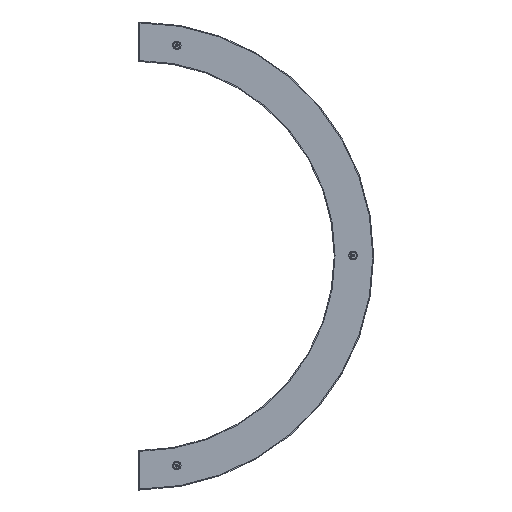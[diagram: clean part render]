
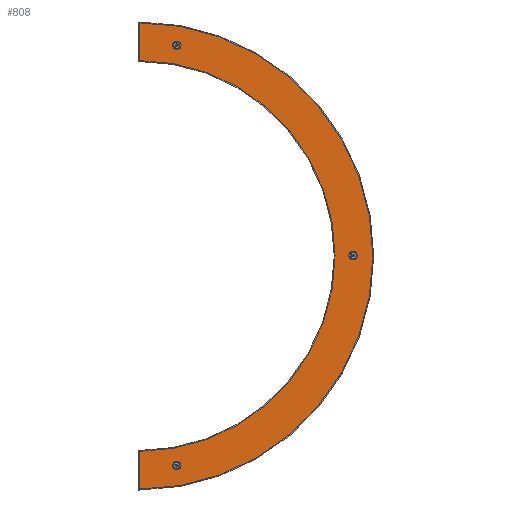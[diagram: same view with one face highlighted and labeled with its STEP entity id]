
A CAD part, top view. The second image highlights one B-rep face of the part: STEP entity #808.
In plain terms, the highlighted planar face has unit normal (0, 0, 1).
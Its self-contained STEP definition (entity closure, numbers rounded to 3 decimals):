
#808=ADVANCED_FACE('',(#1045,#1047,#1049,#1051),#1053,.T.);
#1045=FACE_BOUND('',#1046,.T.);
#1046=EDGE_LOOP('',(#1582,#1583,#1584,#1585));
#1047=FACE_BOUND('',#1048,.T.);
#1048=EDGE_LOOP('',(#1586));
#1049=FACE_BOUND('',#1050,.T.);
#1050=EDGE_LOOP('',(#1587));
#1051=FACE_BOUND('',#1052,.T.);
#1052=EDGE_LOOP('',(#1588));
#1053=PLANE('',#1054);
#1054=AXIS2_PLACEMENT_3D('',#1055,#1056,#1057);
#1055=CARTESIAN_POINT('',(0.,0.,1.5));
#1056=DIRECTION('',(0.,0.,1.));
#1057=DIRECTION('',(-1.,0.,0.));
#1582=ORIENTED_EDGE('',*,*,#1812,.T.);
#1583=ORIENTED_EDGE('',*,*,#1813,.T.);
#1584=ORIENTED_EDGE('',*,*,#1814,.T.);
#1585=ORIENTED_EDGE('',*,*,#1815,.T.);
#1586=ORIENTED_EDGE('',*,*,#1816,.T.);
#1587=ORIENTED_EDGE('',*,*,#1817,.T.);
#1588=ORIENTED_EDGE('',*,*,#1818,.T.);
#1812=EDGE_CURVE('',#1990,#1991,#1992,.T.);
#1813=EDGE_CURVE('',#1991,#1993,#1994,.T.);
#1814=EDGE_CURVE('',#1993,#1995,#1996,.T.);
#1815=EDGE_CURVE('',#1995,#1990,#1997,.T.);
#1816=EDGE_CURVE('',#1998,#1998,#1999,.F.);
#1817=EDGE_CURVE('',#2000,#2000,#2001,.F.);
#1818=EDGE_CURVE('',#2002,#2002,#2003,.F.);
#1990=VERTEX_POINT('',#2363);
#1991=VERTEX_POINT('',#2364);
#1992=CIRCLE('',#2365,346.5);
#1993=VERTEX_POINT('',#2369);
#1994=LINE('',#2370,#2371);
#1995=VERTEX_POINT('',#2373);
#1996=CIRCLE('',#2374,413.5);
#1997=LINE('',#2378,#2379);
#1998=VERTEX_POINT('',#2381);
#1999=CIRCLE('',#2382,2.5);
#2000=VERTEX_POINT('',#2386);
#2001=CIRCLE('',#2387,2.5);
#2002=VERTEX_POINT('',#2391);
#2003=CIRCLE('',#2392,2.5);
#2363=CARTESIAN_POINT('',(0.,346.5,1.5));
#2364=CARTESIAN_POINT('',(0.,-346.5,1.5));
#2365=AXIS2_PLACEMENT_3D('',#2366,#2367,#2368);
#2366=CARTESIAN_POINT('',(0.,0.,1.5));
#2367=DIRECTION('',(0.,0.,-1.));
#2368=DIRECTION('',(0.,1.,0.));
#2369=CARTESIAN_POINT('',(0.,-413.5,1.5));
#2370=CARTESIAN_POINT('',(0.,-346.5,1.5));
#2371=VECTOR('',#2372,1.);
#2372=DIRECTION('',(0.,-1.,0.));
#2373=CARTESIAN_POINT('',(0.,413.5,1.5));
#2374=AXIS2_PLACEMENT_3D('',#2375,#2376,#2377);
#2375=CARTESIAN_POINT('',(0.,0.,1.5));
#2376=DIRECTION('',(0.,0.,1.));
#2377=DIRECTION('',(0.,-1.,0.));
#2378=CARTESIAN_POINT('',(0.,413.5,1.5));
#2379=VECTOR('',#2380,1.);
#2380=DIRECTION('',(0.,-1.,0.));
#2381=CARTESIAN_POINT('',(65.292,-370.288,1.5));
#2382=AXIS2_PLACEMENT_3D('',#2383,#2384,#2385);
#2383=CARTESIAN_POINT('',(65.726,-372.75,1.5));
#2384=DIRECTION('',(0.,0.,1.));
#2385=DIRECTION('',(-0.174,0.985,0.));
#2386=CARTESIAN_POINT('',(376.,0.,1.5));
#2387=AXIS2_PLACEMENT_3D('',#2388,#2389,#2390);
#2388=CARTESIAN_POINT('',(378.5,0.,1.5));
#2389=DIRECTION('',(0.,0.,1.));
#2390=DIRECTION('',(-1.,0.,0.));
#2391=CARTESIAN_POINT('',(65.292,370.288,1.5));
#2392=AXIS2_PLACEMENT_3D('',#2393,#2394,#2395);
#2393=CARTESIAN_POINT('',(65.726,372.75,1.5));
#2394=DIRECTION('',(0.,0.,1.));
#2395=DIRECTION('',(-0.174,-0.985,0.));
